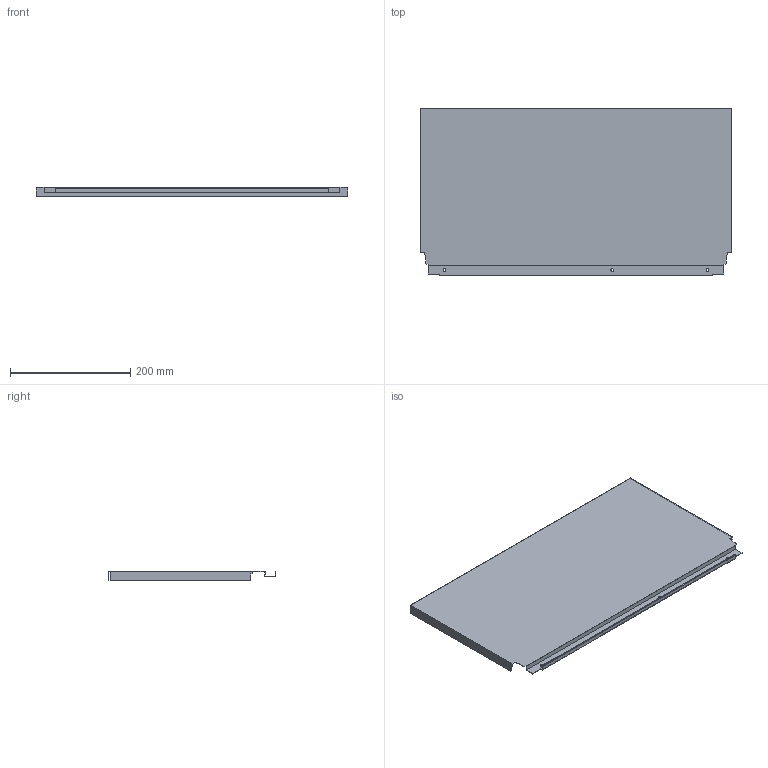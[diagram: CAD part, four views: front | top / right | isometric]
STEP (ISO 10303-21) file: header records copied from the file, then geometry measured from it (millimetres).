
FILE_DESCRIPTION (( 'STEP AP214' ), '1' );
FILE_NAME ('_DWD_XP Stahlrückwand_H278_KAB600_S16.step', '2010-07-08T13:03:46', ( 'grass' ), ( '' ), 'SwSTEP 2.0', 'SolidWorks 2010', '' );
FILE_SCHEMA (( 'AUTOMOTIVE_DESIGN' ));
Length unit declared in the file: millimetre
Products named in the file (1): _DWD_XP Stahlrückwand_H278_KAB600_S16
Bounding box: 517 x 278.57 x 16 mm (x, y, z)
Volume: 145253.4 mm3; surface area: 331614.3 mm2
Topology: 1 solids, 1 shells, 46 faces, 132 edges, 88 vertices
Faces by surface type: plane 40, cylinder 6
Entity records: 1534 total; most frequent: CARTESIAN_POINT 267, ORIENTED_EDGE 264, DIRECTION 238, EDGE_CURVE 132, LINE 120, VECTOR 120, VERTEX_POINT 88, AXIS2_PLACEMENT_3D 59
